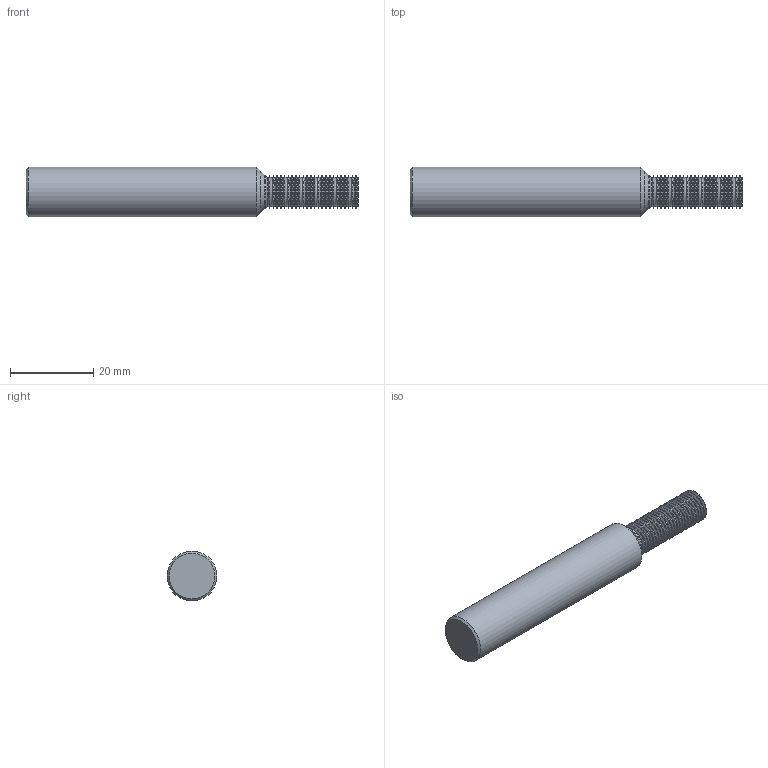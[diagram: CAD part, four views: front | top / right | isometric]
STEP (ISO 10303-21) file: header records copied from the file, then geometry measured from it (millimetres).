
FILE_DESCRIPTION(/* description */ (''),/* implementation_level */ '2;1');
FILE_NAME(/* name */ '00036403-TDM',/* time_stamp */ '2024-02-20T07:37:50+01:00',/* author */ (''),/* organization */ (''),/* preprocessor_version */ 'ST-DEVELOPER v16.5',/* originating_system */ 'HiCAD 2017 2201.0 Build 268',/* authorisation */ '');
FILE_SCHEMA (('AUTOMOTIVE_DESIGN { 1 0 10303 214 1 1 1 1 }'));
Length unit declared in the file: millimetre
Products named in the file (3): Root; ROTATIONSTEIL_0
Assembly tree (2 placements, depth 3):
  Root
    ROTATIONSTEIL_0
      ROTATIONSTEIL_0
Bounding box: 80 x 12 x 12 mm (x, y, z)
Volume: 7373 mm3; surface area: 3369.4 mm2
Topology: 2 solids, 2 shells, 107 faces, 211 edges, 108 vertices
Faces by surface type: cone 52, torus 49, plane 4, cylinder 2
Full cylindrical faces by diameter (mm): 7.95 x1, 12 x1
Entity records: 3234 total; most frequent: DIRECTION 432, CARTESIAN_POINT 321, AXIS2_PLACEMENT_3D 216, PRESENTATION_STYLE_ASSIGNMENT 212, COLOUR_RGB 212, DRAUGHTING_PRE_DEFINED_CURVE_FONT 210, CURVE_STYLE 210, OVER_RIDING_STYLED_ITEM 210
